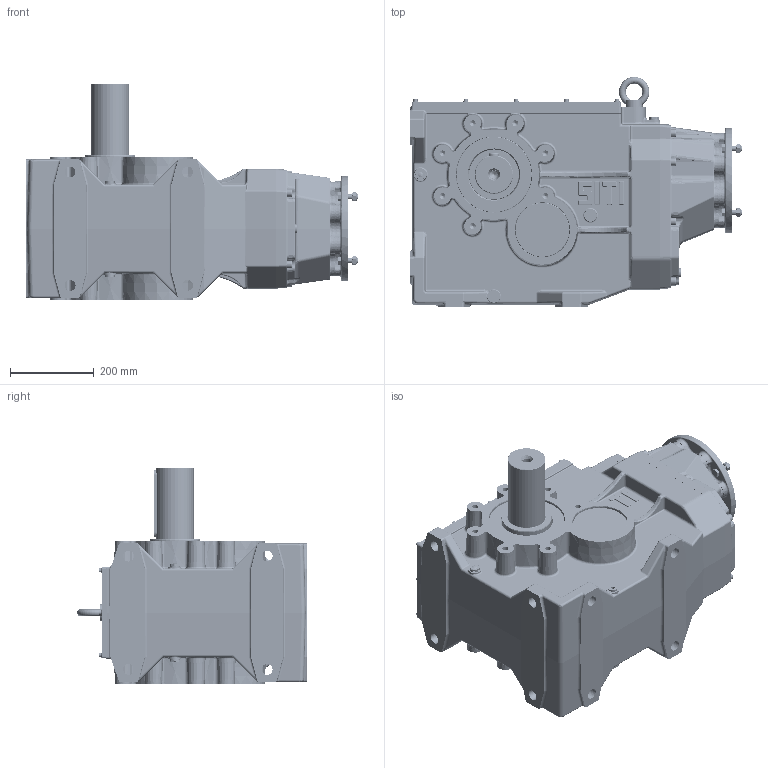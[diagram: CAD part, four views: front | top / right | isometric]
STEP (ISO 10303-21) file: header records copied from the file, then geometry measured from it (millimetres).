
FILE_DESCRIPTION((''),'2;1');
FILE_NAME('O:\Figurini\Figurini BH\3D\160\MBH 160 MS-B PAM 100-112 B5.stp','2013-05-17T14:54:42',('d.iannaccio'),(''),'Autodesk Inventor 2012','Autodesk Inventor 2012','');
FILE_SCHEMA(('AUTOMOTIVE_DESIGN { 1 0 10303 214 1 1 1 1 }'));
Length unit declared in the file: millimetre
Products named in the file (1): MBH_160 MS-B PAM 100-112 B5
Bounding box: 791 x 547.93 x 515 mm (x, y, z)
Volume: 27213173.6 mm3; surface area: 3412743.7 mm2
Topology: 70 solids, 72 shells, 4006 faces, 9607 edges, 5733 vertices
Faces by surface type: plane 1143, cylinder 1088, bspline 810, torus 465, cone 425, sphere 75
Full cylindrical faces by diameter (mm): 1.5 x1, 4.917 x12, 6 x24, 6.4 x12, 7 x12, 10 x12, 10.106 x16, 11 x2, 12 x54, 12.5 x14, 13 x16, 13.835 x14, 14 x4, 14.95 x8, 17.25 x2, 17.294 x3, 18 x16, 20 x2, 20.5 x16, 21 x2, 22 x1, 24 x1, 24.95 x1, 25 x2, 26 x9, 30 x5, 38 x1, 40 x1, 40.41 x1, 72 x1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
Entity records: 150925 total; most frequent: CARTESIAN_POINT 62155, ORIENTED_EDGE 17142, DIRECTION 17087, EDGE_CURVE 8571, AXIS2_PLACEMENT_3D 7242, VERTEX_POINT 5462, EDGE_LOOP 4889, STYLED_ITEM 4076
